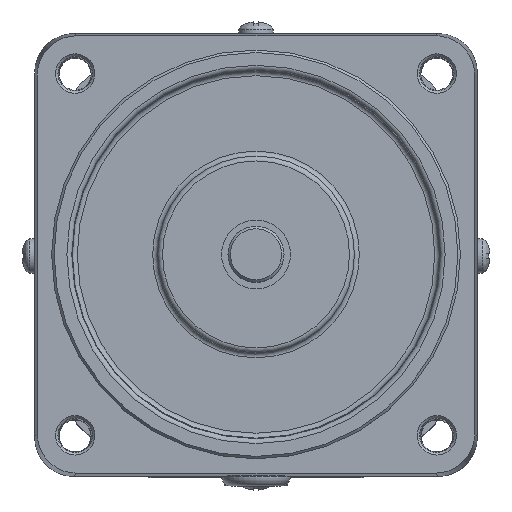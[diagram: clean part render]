
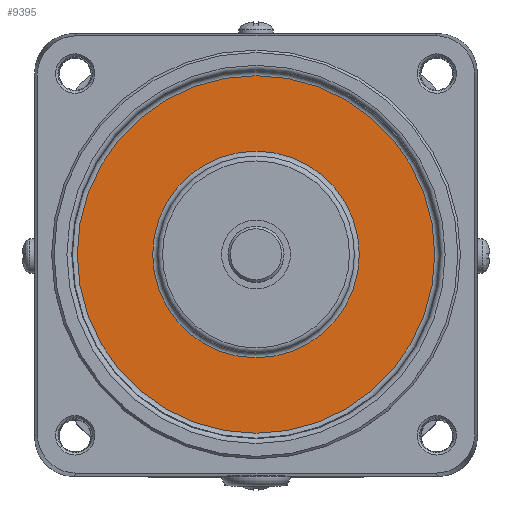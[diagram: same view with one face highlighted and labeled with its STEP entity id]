
A CAD part, top view. The second image highlights one B-rep face of the part: STEP entity #9395.
In plain terms, the highlighted planar face has unit normal (0, 0, 1).
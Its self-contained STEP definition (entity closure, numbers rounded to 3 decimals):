
#746 = CARTESIAN_POINT ( 'NONE',  ( 0., 0., 71.5 ) ) ;
#2438 = PLANE ( 'NONE',  #8137 ) ;
#2972 = CARTESIAN_POINT ( 'NONE',  ( 0., 0., 71.5 ) ) ;
#3522 = ORIENTED_EDGE ( 'NONE', *, *, #8873, .T. ) ;
#3632 = AXIS2_PLACEMENT_3D ( 'NONE', #746, #7769, #4577 ) ;
#4577 = DIRECTION ( 'NONE',  ( 1., 0., 0. ) ) ;
#4618 = VERTEX_POINT ( 'NONE', #12039 ) ;
#4699 = AXIS2_PLACEMENT_3D ( 'NONE', #2972, #12999, #10890 ) ;
#5141 = VERTEX_POINT ( 'NONE', #8467 ) ;
#5241 = EDGE_LOOP ( 'NONE', ( #3522 ) ) ;
#7069 = ORIENTED_EDGE ( 'NONE', *, *, #14247, .T. ) ;
#7769 = DIRECTION ( 'NONE',  ( 0., 0., -1. ) ) ;
#7806 = FACE_BOUND ( 'NONE', #5241, .T. ) ;
#8013 = CARTESIAN_POINT ( 'NONE',  ( 0., 0., 71.5 ) ) ;
#8090 = DIRECTION ( 'NONE',  ( 0., 0., 1. ) ) ;
#8137 = AXIS2_PLACEMENT_3D ( 'NONE', #8013, #8090, #10207 ) ;
#8170 = CIRCLE ( 'NONE', #4699, 36.341 ) ;
#8467 = CARTESIAN_POINT ( 'NONE',  ( 21., 0., 71.5 ) ) ;
#8873 = EDGE_CURVE ( 'NONE', #5141, #5141, #11068, .T. ) ;
#9395 = ADVANCED_FACE ( 'NONE', ( #11158, #7806 ), #2438, .T. ) ;
#10106 = EDGE_LOOP ( 'NONE', ( #7069 ) ) ;
#10207 = DIRECTION ( 'NONE',  ( 1., 0., 0. ) ) ;
#10890 = DIRECTION ( 'NONE',  ( 1., 0., 0. ) ) ;
#11068 = CIRCLE ( 'NONE', #3632, 21. ) ;
#11158 = FACE_OUTER_BOUND ( 'NONE', #10106, .T. ) ;
#12039 = CARTESIAN_POINT ( 'NONE',  ( 36.341, 0., 71.5 ) ) ;
#12999 = DIRECTION ( 'NONE',  ( 0., 0., 1. ) ) ;
#14247 = EDGE_CURVE ( 'NONE', #4618, #4618, #8170, .T. ) ;
